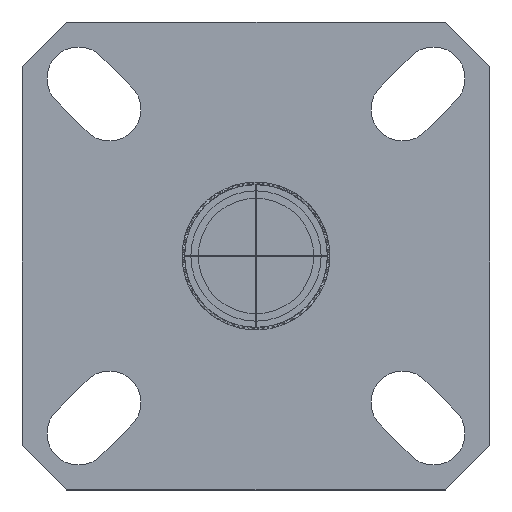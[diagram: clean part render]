
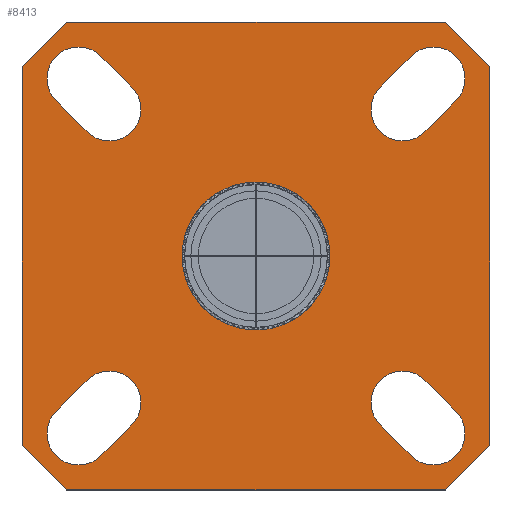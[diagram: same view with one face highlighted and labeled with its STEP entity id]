
A CAD part, top view. The second image highlights one B-rep face of the part: STEP entity #8413.
In plain terms, the highlighted planar face has unit normal (0, 0, 1).
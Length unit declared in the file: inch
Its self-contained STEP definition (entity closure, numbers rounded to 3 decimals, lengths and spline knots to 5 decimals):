
#2666=CARTESIAN_POINT('',(0.,0.,0.));
#2667=DIRECTION('',(0.,0.,1.));
#2668=DIRECTION('',(1.,0.,0.));
#2669=AXIS2_PLACEMENT_3D('',#2666,#2667,#2668);
#3420=DIRECTION('',(0.707,0.707,0.));
#3421=VECTOR('',#3420,0.128);
#3422=CARTESIAN_POINT('',(-0.474,0.38349,0.));
#3423=LINE('',#3422,#3421);
#3424=DIRECTION('',(1.,0.,0.));
#3425=VECTOR('',#3424,0.76698);
#3426=CARTESIAN_POINT('',(-0.38349,0.474,0.));
#3427=LINE('',#3426,#3425);
#3428=DIRECTION('',(0.707,-0.707,0.));
#3429=VECTOR('',#3428,0.128);
#3430=CARTESIAN_POINT('',(0.38349,0.474,0.));
#3431=LINE('',#3430,#3429);
#3432=DIRECTION('',(0.,-1.,0.));
#3433=VECTOR('',#3432,0.76698);
#3434=CARTESIAN_POINT('',(0.474,0.38349,0.));
#3435=LINE('',#3434,#3433);
#3436=DIRECTION('',(-0.707,-0.707,0.));
#3437=VECTOR('',#3436,0.128);
#3438=CARTESIAN_POINT('',(0.474,-0.38349,0.));
#3439=LINE('',#3438,#3437);
#3440=DIRECTION('',(-1.,0.,0.));
#3441=VECTOR('',#3440,0.76698);
#3442=CARTESIAN_POINT('',(0.38349,-0.474,0.));
#3443=LINE('',#3442,#3441);
#3444=DIRECTION('',(-0.707,0.707,0.));
#3445=VECTOR('',#3444,0.128);
#3446=CARTESIAN_POINT('',(-0.38349,-0.474,0.));
#3447=LINE('',#3446,#3445);
#3448=DIRECTION('',(0.,1.,0.));
#3449=VECTOR('',#3448,0.76698);
#3450=CARTESIAN_POINT('',(-0.474,-0.38349,0.));
#3451=LINE('',#3450,#3449);
#3452=DIRECTION('',(-0.707,-0.707,0.));
#3453=VECTOR('',#3452,0.08839);
#3454=CARTESIAN_POINT('',(-0.34225,-0.25175,0.));
#3455=LINE('',#3454,#3453);
#3456=CARTESIAN_POINT('',(-0.3595,-0.3595,0.));
#3457=DIRECTION('',(0.,0.,1.));
#3458=DIRECTION('',(-0.707,0.707,0.));
#3459=AXIS2_PLACEMENT_3D('',#3456,#3457,#3458);
#3461=DIRECTION('',(0.707,0.707,0.));
#3462=VECTOR('',#3461,0.08839);
#3463=CARTESIAN_POINT('',(-0.31425,-0.40475,0.));
#3464=LINE('',#3463,#3462);
#3465=CARTESIAN_POINT('',(-0.297,-0.297,0.));
#3466=DIRECTION('',(0.,0.,1.));
#3467=DIRECTION('',(0.707,-0.707,0.));
#3468=AXIS2_PLACEMENT_3D('',#3465,#3466,#3467);
#3470=DIRECTION('',(0.707,-0.707,0.));
#3471=VECTOR('',#3470,0.08839);
#3472=CARTESIAN_POINT('',(-0.40475,0.31425,0.));
#3473=LINE('',#3472,#3471);
#3474=CARTESIAN_POINT('',(-0.297,0.297,0.));
#3475=DIRECTION('',(0.,0.,1.));
#3476=DIRECTION('',(-0.707,-0.707,0.));
#3477=AXIS2_PLACEMENT_3D('',#3474,#3475,#3476);
#3479=DIRECTION('',(-0.707,0.707,0.));
#3480=VECTOR('',#3479,0.08839);
#3481=CARTESIAN_POINT('',(-0.25175,0.34225,0.));
#3482=LINE('',#3481,#3480);
#3483=CARTESIAN_POINT('',(-0.3595,0.3595,0.));
#3484=DIRECTION('',(0.,0.,1.));
#3485=DIRECTION('',(0.707,0.707,0.));
#3486=AXIS2_PLACEMENT_3D('',#3483,#3484,#3485);
#3488=DIRECTION('',(-0.707,-0.707,0.));
#3489=VECTOR('',#3488,0.08839);
#3490=CARTESIAN_POINT('',(0.31425,0.40475,0.));
#3491=LINE('',#3490,#3489);
#3492=CARTESIAN_POINT('',(0.297,0.297,0.));
#3493=DIRECTION('',(0.,0.,1.));
#3494=DIRECTION('',(-0.707,0.707,0.));
#3495=AXIS2_PLACEMENT_3D('',#3492,#3493,#3494);
#3497=DIRECTION('',(0.707,0.707,0.));
#3498=VECTOR('',#3497,0.08839);
#3499=CARTESIAN_POINT('',(0.34225,0.25175,0.));
#3500=LINE('',#3499,#3498);
#3501=CARTESIAN_POINT('',(0.3595,0.3595,0.));
#3502=DIRECTION('',(0.,0.,1.));
#3503=DIRECTION('',(0.707,-0.707,0.));
#3504=AXIS2_PLACEMENT_3D('',#3501,#3502,#3503);
#3506=CARTESIAN_POINT('',(0.297,-0.297,0.));
#3507=DIRECTION('',(0.,0.,1.));
#3508=DIRECTION('',(0.707,0.707,0.));
#3509=AXIS2_PLACEMENT_3D('',#3506,#3507,#3508);
#3511=DIRECTION('',(0.707,-0.707,0.));
#3512=VECTOR('',#3511,0.08839);
#3513=CARTESIAN_POINT('',(0.25175,-0.34225,0.));
#3514=LINE('',#3513,#3512);
#3515=CARTESIAN_POINT('',(0.3595,-0.3595,0.));
#3516=DIRECTION('',(0.,0.,1.));
#3517=DIRECTION('',(-0.707,-0.707,0.));
#3518=AXIS2_PLACEMENT_3D('',#3515,#3516,#3517);
#3520=DIRECTION('',(-0.707,0.707,0.));
#3521=VECTOR('',#3520,0.08839);
#3522=CARTESIAN_POINT('',(0.40475,-0.31425,0.));
#3523=LINE('',#3522,#3521);
#3724=CARTESIAN_POINT('',(0.,0.,0.));
#3725=DIRECTION('',(0.,0.,1.));
#3726=DIRECTION('',(-1.,0.,0.));
#3727=AXIS2_PLACEMENT_3D('',#3724,#3725,#3726);
#6103=CARTESIAN_POINT('',(-0.474,0.38349,0.));
#6104=CARTESIAN_POINT('',(-0.38349,0.474,0.));
#6105=VERTEX_POINT('',#6103);
#6106=VERTEX_POINT('',#6104);
#6107=CARTESIAN_POINT('',(0.38349,0.474,0.));
#6108=VERTEX_POINT('',#6107);
#6109=CARTESIAN_POINT('',(0.474,0.38349,0.));
#6110=VERTEX_POINT('',#6109);
#6111=CARTESIAN_POINT('',(0.474,-0.38349,0.));
#6112=VERTEX_POINT('',#6111);
#6113=CARTESIAN_POINT('',(0.38349,-0.474,0.));
#6114=VERTEX_POINT('',#6113);
#6115=CARTESIAN_POINT('',(-0.38349,-0.474,0.));
#6116=VERTEX_POINT('',#6115);
#6117=CARTESIAN_POINT('',(-0.474,-0.38349,0.));
#6118=VERTEX_POINT('',#6117);
#6119=CARTESIAN_POINT('',(-0.34225,-0.25175,0.));
#6120=CARTESIAN_POINT('',(-0.40475,-0.31425,0.));
#6121=VERTEX_POINT('',#6119);
#6122=VERTEX_POINT('',#6120);
#6123=CARTESIAN_POINT('',(-0.31425,-0.40475,0.));
#6124=VERTEX_POINT('',#6123);
#6125=CARTESIAN_POINT('',(-0.25175,-0.34225,0.));
#6126=VERTEX_POINT('',#6125);
#6127=CARTESIAN_POINT('',(-0.40475,0.31425,0.));
#6128=CARTESIAN_POINT('',(-0.34225,0.25175,0.));
#6129=VERTEX_POINT('',#6127);
#6130=VERTEX_POINT('',#6128);
#6131=CARTESIAN_POINT('',(-0.25175,0.34225,0.));
#6132=VERTEX_POINT('',#6131);
#6133=CARTESIAN_POINT('',(-0.31425,0.40475,0.));
#6134=VERTEX_POINT('',#6133);
#6135=CARTESIAN_POINT('',(0.31425,0.40475,0.));
#6136=CARTESIAN_POINT('',(0.25175,0.34225,0.));
#6137=VERTEX_POINT('',#6135);
#6138=VERTEX_POINT('',#6136);
#6139=CARTESIAN_POINT('',(0.34225,0.25175,0.));
#6140=VERTEX_POINT('',#6139);
#6141=CARTESIAN_POINT('',(0.40475,0.31425,0.));
#6142=VERTEX_POINT('',#6141);
#6143=CARTESIAN_POINT('',(0.34225,-0.25175,0.));
#6144=CARTESIAN_POINT('',(0.25175,-0.34225,0.));
#6145=VERTEX_POINT('',#6143);
#6146=VERTEX_POINT('',#6144);
#6147=CARTESIAN_POINT('',(0.31425,-0.40475,0.));
#6148=VERTEX_POINT('',#6147);
#6149=CARTESIAN_POINT('',(0.40475,-0.31425,0.));
#6150=VERTEX_POINT('',#6149);
#6199=CARTESIAN_POINT('',(0.1495,0.,0.));
#6200=CARTESIAN_POINT('',(-0.1495,0.,0.));
#6201=VERTEX_POINT('',#6199);
#6202=VERTEX_POINT('',#6200);
#8345=CARTESIAN_POINT('',(0.,0.,0.));
#8346=DIRECTION('',(0.,0.,-1.));
#8347=DIRECTION('',(0.,-1.,0.));
#8348=AXIS2_PLACEMENT_3D('',#8345,#8346,#8347);
#8349=PLANE('',#8348);
#8351=ORIENTED_EDGE('',*,*,#8350,.T.);
#8353=ORIENTED_EDGE('',*,*,#8352,.T.);
#8355=ORIENTED_EDGE('',*,*,#8354,.T.);
#8357=ORIENTED_EDGE('',*,*,#8356,.T.);
#8359=ORIENTED_EDGE('',*,*,#8358,.T.);
#8361=ORIENTED_EDGE('',*,*,#8360,.T.);
#8363=ORIENTED_EDGE('',*,*,#8362,.T.);
#8365=ORIENTED_EDGE('',*,*,#8364,.T.);
#8366=EDGE_LOOP('',(#8351,#8353,#8355,#8357,#8359,#8361,#8363,#8365));
#8367=FACE_OUTER_BOUND('',#8366,.F.);
#8369=ORIENTED_EDGE('',*,*,#8368,.T.);
#8371=ORIENTED_EDGE('',*,*,#8370,.T.);
#8373=ORIENTED_EDGE('',*,*,#8372,.T.);
#8375=ORIENTED_EDGE('',*,*,#8374,.T.);
#8376=EDGE_LOOP('',(#8369,#8371,#8373,#8375));
#8377=FACE_BOUND('',#8376,.F.);
#8379=ORIENTED_EDGE('',*,*,#8378,.T.);
#8381=ORIENTED_EDGE('',*,*,#8380,.T.);
#8383=ORIENTED_EDGE('',*,*,#8382,.T.);
#8385=ORIENTED_EDGE('',*,*,#8384,.T.);
#8386=EDGE_LOOP('',(#8379,#8381,#8383,#8385));
#8387=FACE_BOUND('',#8386,.F.);
#8389=ORIENTED_EDGE('',*,*,#8388,.T.);
#8391=ORIENTED_EDGE('',*,*,#8390,.T.);
#8393=ORIENTED_EDGE('',*,*,#8392,.T.);
#8395=ORIENTED_EDGE('',*,*,#8394,.T.);
#8396=EDGE_LOOP('',(#8389,#8391,#8393,#8395));
#8397=FACE_BOUND('',#8396,.F.);
#8399=ORIENTED_EDGE('',*,*,#8398,.T.);
#8401=ORIENTED_EDGE('',*,*,#8400,.T.);
#8403=ORIENTED_EDGE('',*,*,#8402,.T.);
#8405=ORIENTED_EDGE('',*,*,#8404,.T.);
#8406=EDGE_LOOP('',(#8399,#8401,#8403,#8405));
#8407=FACE_BOUND('',#8406,.F.);
#8408=ORIENTED_EDGE('',*,*,#8091,.T.);
#8410=ORIENTED_EDGE('',*,*,#8409,.T.);
#8411=EDGE_LOOP('',(#8408,#8410));
#8412=FACE_BOUND('',#8411,.F.);
#8413=ADVANCED_FACE('',(#8367,#8377,#8387,#8397,#8407,#8412),#8349,.F.);
#2670=CIRCLE('',#2669,0.1495);
#3460=CIRCLE('',#3459,0.064);
#3469=CIRCLE('',#3468,0.064);
#3478=CIRCLE('',#3477,0.064);
#3487=CIRCLE('',#3486,0.064);
#3496=CIRCLE('',#3495,0.064);
#3505=CIRCLE('',#3504,0.064);
#3510=CIRCLE('',#3509,0.064);
#3519=CIRCLE('',#3518,0.064);
#3728=CIRCLE('',#3727,0.1495);
#8091=EDGE_CURVE('',#6201,#6202,#2670,.T.);
#8350=EDGE_CURVE('',#6105,#6106,#3423,.T.);
#8352=EDGE_CURVE('',#6106,#6108,#3427,.T.);
#8354=EDGE_CURVE('',#6108,#6110,#3431,.T.);
#8356=EDGE_CURVE('',#6110,#6112,#3435,.T.);
#8358=EDGE_CURVE('',#6112,#6114,#3439,.T.);
#8360=EDGE_CURVE('',#6114,#6116,#3443,.T.);
#8362=EDGE_CURVE('',#6116,#6118,#3447,.T.);
#8364=EDGE_CURVE('',#6118,#6105,#3451,.T.);
#8368=EDGE_CURVE('',#6121,#6122,#3455,.T.);
#8370=EDGE_CURVE('',#6122,#6124,#3460,.T.);
#8372=EDGE_CURVE('',#6124,#6126,#3464,.T.);
#8374=EDGE_CURVE('',#6126,#6121,#3469,.T.);
#8378=EDGE_CURVE('',#6129,#6130,#3473,.T.);
#8380=EDGE_CURVE('',#6130,#6132,#3478,.T.);
#8382=EDGE_CURVE('',#6132,#6134,#3482,.T.);
#8384=EDGE_CURVE('',#6134,#6129,#3487,.T.);
#8388=EDGE_CURVE('',#6137,#6138,#3491,.T.);
#8390=EDGE_CURVE('',#6138,#6140,#3496,.T.);
#8392=EDGE_CURVE('',#6140,#6142,#3500,.T.);
#8394=EDGE_CURVE('',#6142,#6137,#3505,.T.);
#8398=EDGE_CURVE('',#6145,#6146,#3510,.T.);
#8400=EDGE_CURVE('',#6146,#6148,#3514,.T.);
#8402=EDGE_CURVE('',#6148,#6150,#3519,.T.);
#8404=EDGE_CURVE('',#6150,#6145,#3523,.T.);
#8409=EDGE_CURVE('',#6202,#6201,#3728,.T.);
